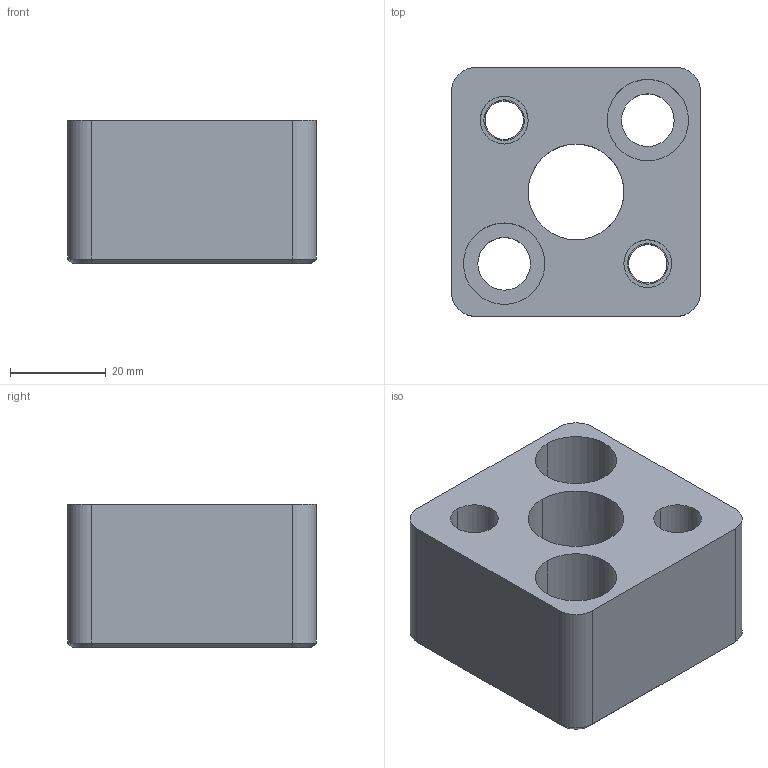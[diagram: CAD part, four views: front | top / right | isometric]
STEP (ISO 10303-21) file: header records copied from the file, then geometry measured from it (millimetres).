
FILE_DESCRIPTION(/* description */ (''),/* implementation_level */ '2;1');
FILE_NAME(/* name */ '3d_hsr-fn20_04199_r00.stp',/* time_stamp */ '2011-01-10T14:14:34+09:00',/* author */ ('MISUMI'),/* organization */ (''),/* preprocessor_version */ 'ST-DEVELOPER v11',/* originating_system */ 'UGS - NX 5.0',/* authorisation */ '');
FILE_SCHEMA (('CONFIG_CONTROL_DESIGN'));
Length unit declared in the file: millimetre
Products named in the file (1): 3d_hsr-fn20_04199_r00
Bounding box: 52 x 52 x 30 mm (x, y, z)
Volume: 57478.4 mm3; surface area: 16201.1 mm2
Topology: 1 solids, 1 shells, 55 faces, 132 edges, 85 vertices
Faces by surface type: cylinder 29, plane 20, cone 6
Entity records: 1730 total; most frequent: DIRECTION 304, CARTESIAN_POINT 288, ORIENTED_EDGE 264, EDGE_CURVE 132, AXIS2_PLACEMENT_3D 121, VERTEX_POINT 85, EDGE_LOOP 71, CIRCLE 65
